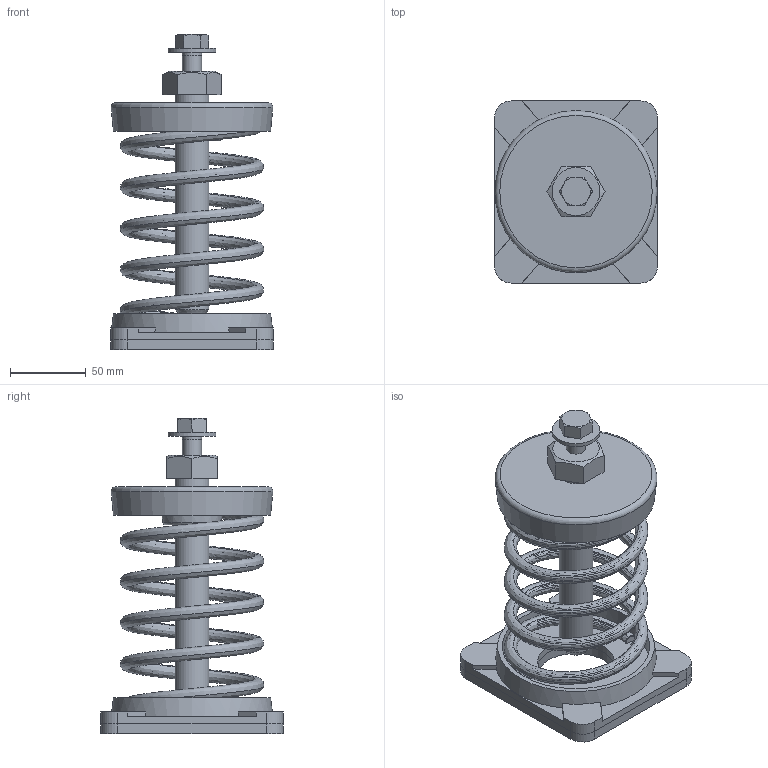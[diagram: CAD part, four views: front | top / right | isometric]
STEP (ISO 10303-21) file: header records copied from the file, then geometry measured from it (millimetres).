
FILE_DESCRIPTION(/* description */ (''),/* implementation_level */ '2;1');
FILE_NAME(/* name */ 'C:\001_Work\Designs\SLF ASSEMBLIES\SLF-103.stp',/* time_stamp */ '2016-01-10T14:30:16-05:00',/* author */ ('rramoutar'),/* organization */ ('Mason Industries Inc.'),/* preprocessor_version */ 'ST-DEVELOPER v15.6',/* originating_system */ 'Autodesk Inventor 2015',/* authorisation */ '');
FILE_SCHEMA (('CONFIG_CONTROL_DESIGN'));
Length unit declared in the file: inch
Products named in the file (1): SLF-103
Bounding box: 107.95 x 120.65 x 208.64 mm (x, y, z)
Volume: 331859.5 mm3; surface area: 177920 mm2
Topology: 7 solids, 7 shells, 232 faces, 587 edges, 388 vertices
Faces by surface type: plane 156, bspline 30, cylinder 29, cone 14, torus 3
Full cylindrical faces by diameter (mm): 9.525 x8, 12.7 x2, 13.487 x1, 19.05 x1, 22.225 x2, 31.75 x1, 50.8 x2, 97.631 x2
Entity records: 15301 total; most frequent: CARTESIAN_POINT 9798, ORIENTED_EDGE 1088, DIRECTION 951, EDGE_CURVE 544, VERTEX_POINT 375, LINE 363, VECTOR 363, EDGE_LOOP 299
